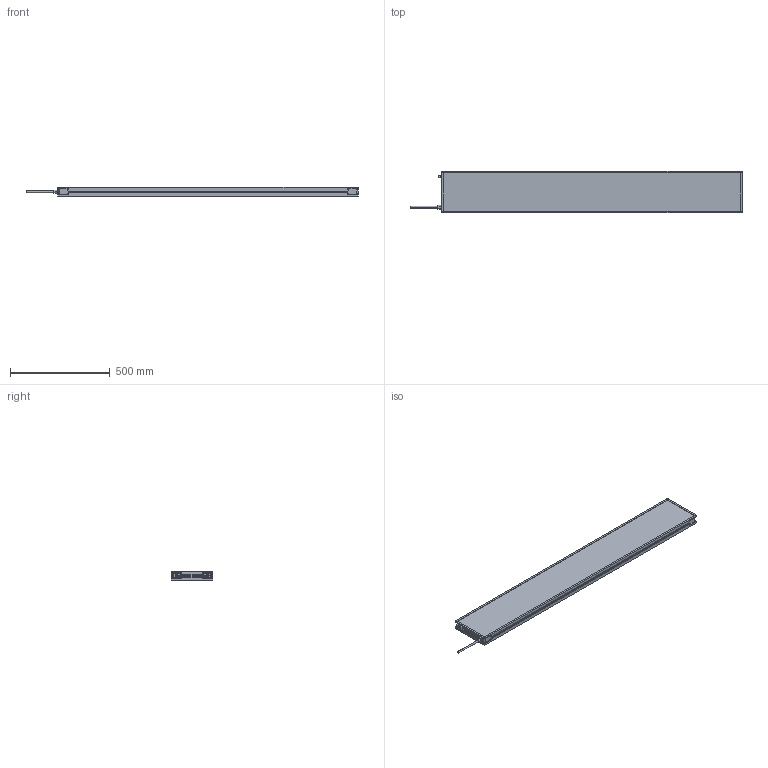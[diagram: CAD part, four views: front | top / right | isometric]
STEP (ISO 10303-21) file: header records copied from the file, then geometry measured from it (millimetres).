
FILE_DESCRIPTION (( 'STEP AP214' ), '1' );
FILE_NAME ('MBACK-xxxx-xxx-M1A2_CLIENT200x1500.STEP', '2022-04-01T11:30:11', ( '' ), ( '' ), 'SwSTEP 2.0', 'SolidWorks 2020', '' );
FILE_SCHEMA (( 'AUTOMOTIVE_DESIGN' ));
Length unit declared in the file: millimetre
Products named in the file (1): MBACK-xxxx-xxx-M1A2_CLIENT200x1500
Bounding box: 1667.4 x 208 x 45.5 mm (x, y, z)
Volume: 13001509.3 mm3; surface area: 861223.3 mm2
Topology: 1 solids, 1 shells, 470 faces, 1210 edges, 804 vertices
Faces by surface type: plane 265, cylinder 117, bspline 80, cone 8
Entity records: 18046 total; most frequent: CARTESIAN_POINT 6837, ORIENTED_EDGE 2420, DIRECTION 2082, EDGE_CURVE 1210, VERTEX_POINT 804, LINE 800, VECTOR 800, AXIS2_PLACEMENT_3D 641
